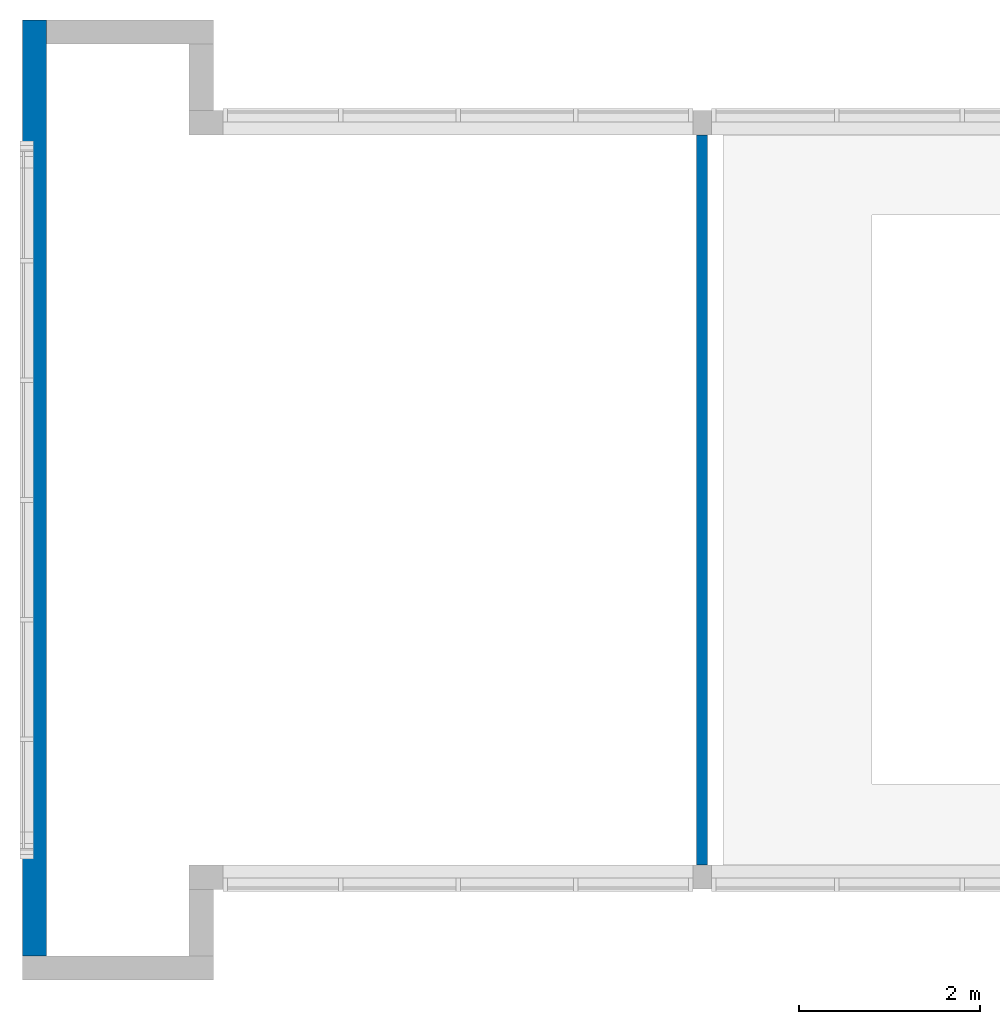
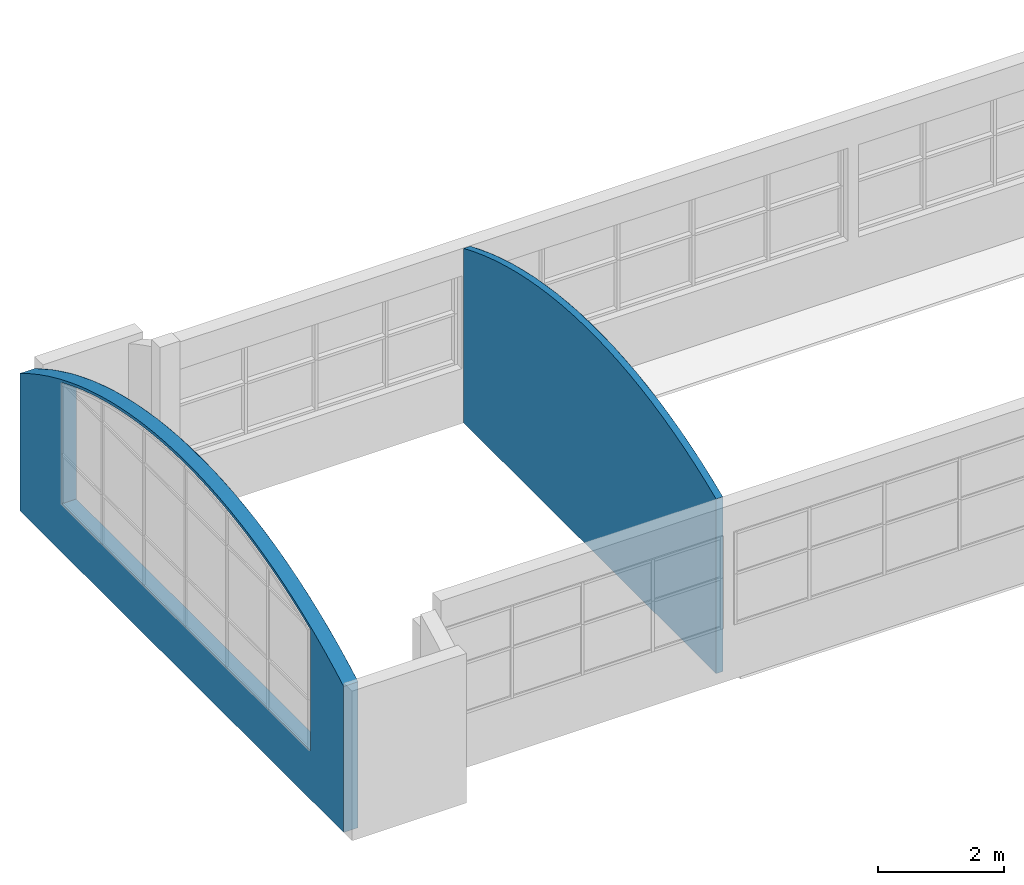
# One storey, part 13 of 14: 2 walls.
"""IFC2X3 building model written with IfcOpenShell, lengths in metres."""

from ifc_helpers import new_model, entity, si_unit, converted_unit, frame, origin, place, context, project, spatial, face_set, surface_model, material, layer, layer_set, layer_usage, element, save


model = new_model("IFC2X3")

# Units and contexts
model_context = context("Model", 3, precision=1e-09, world=origin())
plan_context = context("Plan", 3, precision=1e-09, world=origin())
ifc_project = project(units=[si_unit("LENGTHUNIT", "METRE"), si_unit("AREAUNIT", "SQUARE_METRE"), si_unit("VOLUMEUNIT", "CUBIC_METRE"), converted_unit("PLANEANGLEUNIT", "DEGREE", entity("IfcRatioMeasure", 0.01745329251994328), si_unit("PLANEANGLEUNIT", "RADIAN"), dimensions=[0, 0, 0, 0, 0, 0, 0]), si_unit("TIMEUNIT", "SECOND")], contexts=[model_context, plan_context])

# Site, building, storey
site_placement = place(None, origin())
site = spatial("IfcSite", under=ifc_project, at=site_placement, Name="Default", CompositionType="ELEMENT")
building_placement = place(site_placement, origin())
building = spatial("IfcBuilding", under=site, at=building_placement, CompositionType="ELEMENT")
storey_placement = place(building_placement, frame((0.0, 0.0, 9.25000000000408)))
storey = spatial("IfcBuildingStorey", under=building, at=storey_placement, Name="Roof - Main", CompositionType="ELEMENT", Elevation=9.25000000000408)

# Walls
ifc_material_1 = material(Name="Insulation - Insulated Panel")
ifc_layer_1 = layer(ifc_material_1, 0.042)
ifc_material_2 = material(Name="Metal - Firring")
ifc_layer_2 = layer(ifc_material_2, 0.038)
ifc_material_3 = material(Name="Wood - Sheathing - plywood")
ifc_layer_3 = layer(ifc_material_3, 0.019)
ifc_material_4 = material(Name="Metal - Stud Layer")
ifc_layer_4 = layer(ifc_material_4, 0.152)
ifc_material_5 = material(Name="Plasterboard")
ifc_layer_5 = layer(ifc_material_5, 0.016)
ifc_layer_set_1 = layer_set([ifc_layer_1, ifc_layer_2, ifc_layer_3, ifc_layer_4, ifc_layer_5], Name="Basic Wall:Exterior - Insul Panel on Mtl. Stud")
ifc_layer_usage_1 = layer_usage(ifc_layer_set_1, "AXIS2", "NEGATIVE", 0.1335)
wall_1_placement = place(storey_placement, frame((-40.90650000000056, 26.67250986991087, 0.1199999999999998), z_axis=(0.0, 0.0, 1.0), x_axis=(0.0, 1.0, 0.0)))
element("IfcWall", 1, at=wall_1_placement, inside=storey, material=ifc_layer_usage_1, Name="Basic Wall:Exterior - Insul Panel on Mtl. Stud", ObjectType="Basic Wall:Exterior - Insul Panel on Mtl. Stud", context=model_context, shape_type="SurfaceModel", body=[
    surface_model("IfcFaceBasedSurfaceModel", [(0.0, -0.1334999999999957, 0.0), (10.04498026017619, -0.1334999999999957, 0.0), (10.31198026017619, -0.1334999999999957, 0.0), (10.3119802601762, -0.1334999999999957, 2.675589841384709), (10.01113995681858, -0.1334999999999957, 2.852369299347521), (9.704403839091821, -0.1334999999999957, 3.018708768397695), (9.392134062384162, -0.1334999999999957, 3.174411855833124), (9.074699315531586, -0.1334999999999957, 3.319294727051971), (8.752474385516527, -0.1334999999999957, 3.453186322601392), (8.425839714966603, -0.1334999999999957, 3.575928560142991), (8.095180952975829, -0.1334999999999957, 3.687376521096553), (7.760888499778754, -0.1334999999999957, 3.787398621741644), (7.423357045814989, -0.1334999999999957, 3.875876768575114), (7.082985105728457, -0.1334999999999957, 3.952706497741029), (6.740174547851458, -0.1334999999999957, 4.017797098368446), (6.395330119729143, -0.1334999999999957, 4.071071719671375), (6.048858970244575, -0.1334999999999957, 4.11246746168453), (5.701170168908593, -0.1334999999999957, 4.141935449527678), (5.352674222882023, -0.1334999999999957, 4.159440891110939), (5.003782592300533, -0.1334999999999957, 4.164963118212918), (4.654907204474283, -0.1334999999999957, 4.158495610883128), (4.306459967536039, -0.1334999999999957, 4.140046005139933), (3.9588522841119, -0.1334999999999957, 4.109636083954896), (3.612494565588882, -0.1334999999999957, 4.067301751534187), (3.267795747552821, -0.1334999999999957, 4.01309299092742), (2.92516280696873, -0.1334999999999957, 3.947073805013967), (2.585000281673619, -0.1334999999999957, 3.8693221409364), (2.247709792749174, -0.1334999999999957, 3.779929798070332), (1.913689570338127, -0.1334999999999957, 3.679002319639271), (1.583333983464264, -0.1334999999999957, 3.566658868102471), (1.257033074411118, -0.1334999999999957, 3.443032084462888), (0.9351720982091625, -0.1334999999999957, 3.308267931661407), (0.6181310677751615, -0.1334999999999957, 3.16252552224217), (0.3062843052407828, -0.1334999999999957, 3.005976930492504), (0.0, -0.1334999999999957, 2.83880698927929), (1.064303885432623, -0.1334999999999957, 0.9470000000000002), (1.064303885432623, -0.1334999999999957, 3.305049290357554), (1.392391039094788, -0.1334999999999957, 3.436532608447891), (1.724836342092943, -0.1334999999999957, 3.556570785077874), (2.061240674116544, -0.1334999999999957, 3.665019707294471), (2.401200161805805, -0.1334999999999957, 3.761749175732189), (2.744306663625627, -0.1334999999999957, 3.846643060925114), (3.090148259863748, -0.1334999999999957, 3.919599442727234), (3.438309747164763, -0.1334999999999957, 3.980530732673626), (3.788373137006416, -0.1334999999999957, 4.029363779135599), (4.139918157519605, -0.1334999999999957, 4.066039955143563), (4.492522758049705, -0.1334999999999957, 4.090515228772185), (4.84576361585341, -0.1334999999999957, 4.102760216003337), (5.199216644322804, -0.1334999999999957, 4.102760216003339), (5.552457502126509, -0.1334999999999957, 4.090515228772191), (5.905062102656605, -0.1334999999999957, 4.06603995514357), (6.256607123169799, -0.1334999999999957, 4.029363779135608), (6.606670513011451, -0.1334999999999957, 3.980530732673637), (6.954832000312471, -0.1334999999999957, 3.919599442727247), (7.300673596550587, -0.1334999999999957, 3.846643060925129), (7.643780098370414, -0.1334999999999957, 3.761749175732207), (7.983739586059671, -0.1334999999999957, 3.665019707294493), (8.320143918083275, -0.1334999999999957, 3.556570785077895), (8.652589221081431, -0.1334999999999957, 3.436532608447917), (8.980676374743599, -0.1334999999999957, 3.30504929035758), (8.980676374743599, -0.1334999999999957, 0.9470000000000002), (10.3119802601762, 0.1335000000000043, 0.0), (10.31198026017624, 0.1335000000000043, 2.675589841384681), (10.01113995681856, 0.1335000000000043, 2.85236929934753), (9.704403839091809, 0.1335000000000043, 3.018708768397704), (9.392134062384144, 0.1335000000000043, 3.17441185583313), (9.074699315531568, 0.1335000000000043, 3.319294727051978), (8.752474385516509, 0.1335000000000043, 3.453186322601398), (8.425839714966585, 0.1335000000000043, 3.575928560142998), (8.095180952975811, 0.1335000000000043, 3.687376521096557), (7.760888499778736, 0.1335000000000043, 3.787398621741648), (7.423357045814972, 0.1335000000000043, 3.875876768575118), (7.08298510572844, 0.1335000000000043, 3.952706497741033), (6.740174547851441, 0.1335000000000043, 4.017797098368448), (6.395330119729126, 0.1335000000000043, 4.071071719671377), (6.048858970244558, 0.1335000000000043, 4.112467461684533), (5.701170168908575, 0.1335000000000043, 4.141935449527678), (5.352674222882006, 0.1335000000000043, 4.159440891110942), (5.003782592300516, 0.1335000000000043, 4.164963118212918), (4.654907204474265, 0.1335000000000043, 4.158495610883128), (4.306459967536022, 0.1335000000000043, 4.140046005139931), (3.958852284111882, 0.1335000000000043, 4.109636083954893), (3.612494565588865, 0.1335000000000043, 4.067301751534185), (3.267795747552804, 0.1335000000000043, 4.013092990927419), (2.925162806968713, 0.1335000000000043, 3.947073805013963), (2.585000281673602, 0.1335000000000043, 3.869322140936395), (2.247709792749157, 0.1335000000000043, 3.779929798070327), (1.91368957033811, 0.1335000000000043, 3.679002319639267), (1.583333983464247, 0.1335000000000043, 3.566658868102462), (1.257033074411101, 0.1335000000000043, 3.443032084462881), (0.9351720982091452, 0.1335000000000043, 3.308267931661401), (0.6181310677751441, 0.1335000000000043, 3.162525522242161), (0.3062843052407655, 0.1335000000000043, 3.005976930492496), (0.0, 0.1335000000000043, 2.838806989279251), (0.0, 0.1335000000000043, 0.0), (1.064303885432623, 0.1335000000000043, 3.305049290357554), (1.392391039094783, 0.1335000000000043, 3.436532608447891), (1.724836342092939, 0.1335000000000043, 3.556570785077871), (2.06124067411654, 0.1335000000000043, 3.665019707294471), (2.401200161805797, 0.1335000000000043, 3.761749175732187), (2.744306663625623, 0.1335000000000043, 3.846643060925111), (3.090148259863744, 0.1335000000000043, 3.919599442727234), (3.438309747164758, 0.1335000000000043, 3.980530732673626), (3.788373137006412, 0.1335000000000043, 4.029363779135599), (4.139918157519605, 0.1335000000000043, 4.066039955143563), (4.492522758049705, 0.1335000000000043, 4.090515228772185), (4.845763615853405, 0.1335000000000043, 4.102760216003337), (5.199216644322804, 0.1335000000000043, 4.102760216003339), (5.552457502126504, 0.1335000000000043, 4.090515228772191), (5.905062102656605, 0.1335000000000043, 4.06603995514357), (6.256607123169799, 0.1335000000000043, 4.029363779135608), (6.606670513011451, 0.1335000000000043, 3.980530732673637), (6.954832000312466, 0.1335000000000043, 3.919599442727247), (7.300673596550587, 0.1335000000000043, 3.846643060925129), (7.643780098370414, 0.1335000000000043, 3.761749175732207), (7.983739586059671, 0.1335000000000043, 3.665019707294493), (8.320143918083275, 0.1335000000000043, 3.556570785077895), (8.652589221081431, 0.1335000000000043, 3.436532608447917), (8.980676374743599, 0.1335000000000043, 3.30504929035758), (8.980676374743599, 0.1335000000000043, 0.9470000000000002), (1.064303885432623, 0.1335000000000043, 0.9469999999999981), (5.178039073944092, 0.1335019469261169, 4.15021562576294), (5.178039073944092, -0.1335003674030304, 4.15021562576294)], [face_set([[[0, 1, 2, 3, 4, 5, 6, 7, 8, 9, 10, 11, 12, 13, 14, 15, 16, 17, 18, 19, 20, 21, 22, 23, 24, 25, 26, 27, 28, 29, 30, 31, 32, 33, 34], [35, 36, 37, 38, 39, 40, 41, 42, 43, 44, 45, 46, 47, 48, 49, 50, 51, 52, 53, 54, 55, 56, 57, 58, 59, 60]], [[61, 62, 63, 64, 65, 66, 67, 68, 69, 70, 71, 72, 73, 74, 75, 76, 77, 78, 79, 80, 81, 82, 83, 84, 85, 86, 87, 88, 89, 90, 91, 92, 93, 94], [95, 96, 97, 98, 99, 100, 101, 102, 103, 104, 105, 106, 107, 108, 109, 110, 111, 112, 113, 114, 115, 116, 117, 118, 119, 120]], [[3, 2, 61, 62]], [[2, 1, 0, 94, 61]], [[0, 94, 93, 34]], [[35, 120, 95, 36]], [[97, 96, 37, 38]], [[96, 95, 36, 37]], [[100, 99, 40, 41]], [[99, 98, 39, 40]], [[98, 97, 38, 39]], [[103, 102, 43, 44]], [[102, 101, 42, 43]], [[106, 105, 46, 47]], [[105, 104, 45, 46]], [[104, 103, 44, 45]], [[101, 100, 41, 42]], [[107, 106, 47, 48]], [[109, 108, 49, 50]], [[108, 107, 48, 49]], [[112, 111, 52, 53]], [[111, 110, 51, 52]], [[110, 109, 50, 51]], [[115, 114, 55, 56]], [[114, 113, 54, 55]], [[118, 117, 58, 59]], [[117, 116, 57, 58]], [[116, 115, 56, 57]], [[113, 112, 53, 54]], [[59, 60, 119, 118]], [[120, 119, 60, 35]], [[64, 66, 7, 5]], [[62, 64, 5, 3]], [[66, 68, 9, 7]], [[72, 74, 15, 13]], [[70, 72, 13, 11]], [[68, 70, 11, 9]], [[74, 76, 17, 15]], [[121, 79, 20, 122]], [[76, 121, 122, 17]], [[81, 83, 24, 22]], [[79, 81, 22, 20]], [[83, 85, 26, 24]], [[89, 91, 32, 30]], [[87, 89, 30, 28]], [[85, 87, 28, 26]], [[91, 93, 34, 32]]])]),
])
ifc_layer_6 = layer(ifc_material_5, 0.016)
ifc_layer_7 = layer(ifc_material_4, 0.092)
ifc_layer_8 = layer(ifc_material_5, 0.016)
ifc_layer_set_2 = layer_set([ifc_layer_6, ifc_layer_7, ifc_layer_8], Name="Basic Wall:Interior - Partition (92mm Stud)")
ifc_layer_usage_2 = layer_usage(ifc_layer_set_2, "AXIS2", "NEGATIVE", 0.062)
wall_2_placement = place(storey_placement, frame((-33.5500000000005, 27.67300986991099, 0.0), z_axis=(0.0, 0.0, 1.0), x_axis=(0.0, 1.0, 0.0)))
element("IfcWall", 2, at=wall_2_placement, inside=storey, material=ifc_layer_usage_2, Name="Basic Wall:Interior - Partition (92mm Stud)", ObjectType="Basic Wall:Interior - Partition (92mm Stud)", context=model_context, shape_type="SurfaceModel", body=[
    surface_model("IfcFaceBasedSurfaceModel", [(0.0, -0.06200000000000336, 0.0), (8.044480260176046, -0.06200000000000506, 0.0), (8.044480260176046, -0.06200000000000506, 3.392190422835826), (7.71189691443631, -0.06200000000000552, 3.52893938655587), (7.374680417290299, -0.06200000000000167, 3.653827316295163), (7.033253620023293, -0.06200000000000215, 3.766697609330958), (6.688044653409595, -0.06200000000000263, 3.867408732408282), (6.339486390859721, -0.06200000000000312, 3.955834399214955), (5.9880159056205, -0.06200000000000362, 4.031863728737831), (5.634073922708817, -0.06200000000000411, 4.09540138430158), (5.278104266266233, -0.06200000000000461, 4.146367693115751), (4.920553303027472, -0.06200000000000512, 4.184698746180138), (4.561869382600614, -0.06200000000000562, 4.210346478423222), (4.202502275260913, -0.0620000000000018, 4.223278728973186), (3.842902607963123, -0.06200000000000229, 4.223479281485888), (3.483521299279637, -0.0620000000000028, 4.210947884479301), (3.124808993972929, -0.06200000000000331, 4.185700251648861), (2.767215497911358, -0.06200000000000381, 4.147768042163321), (2.411189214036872, -0.06200000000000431, 4.097198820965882), (2.057176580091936, -0.06200000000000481, 4.034055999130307), (1.705621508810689, -0.06200000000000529, 3.958418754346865), (1.35696483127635, -0.06200000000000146, 3.870381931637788), (1.011643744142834, -0.06200000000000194, 3.770055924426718), (0.67009126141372, -0.06200000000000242, 3.657566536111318), (0.3327356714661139, -0.06200000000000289, 3.533054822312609), (0.0, -0.06200000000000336, 3.396676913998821), (0.0, 0.06199999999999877, 0.0), (8.044480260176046, 0.06199999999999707, 0.0), (8.04448026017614, 0.06199999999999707, 3.392190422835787), (7.71189691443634, 0.06199999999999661, 3.528939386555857), (7.374680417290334, 0.06200000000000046, 3.65382731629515), (7.033253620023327, 0.06199999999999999, 3.766697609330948), (6.68804465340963, 0.0619999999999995, 3.867408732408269), (6.339486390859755, 0.06199999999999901, 3.955834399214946), (5.988015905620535, 0.06199999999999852, 4.031863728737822), (5.634073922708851, 0.06199999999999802, 4.095401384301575), (5.278104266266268, 0.06199999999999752, 4.146367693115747), (4.920553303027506, 0.06199999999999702, 4.184698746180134), (4.561869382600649, 0.06199999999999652, 4.210346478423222), (4.202502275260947, 0.06200000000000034, 4.223278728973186), (3.842902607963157, 0.06199999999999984, 4.223479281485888), (3.483521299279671, 0.06199999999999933, 4.210947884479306), (3.124808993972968, 0.06199999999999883, 4.185700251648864), (2.767215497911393, 0.06199999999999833, 4.147768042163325), (2.411189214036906, 0.06199999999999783, 4.097198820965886), (2.05717658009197, 0.06199999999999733, 4.034055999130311), (1.705621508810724, 0.06199999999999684, 3.958418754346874), (1.356964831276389, 0.06200000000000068, 3.870381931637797), (1.011643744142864, 0.06200000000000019, 3.77005592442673), (0.6700912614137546, 0.06199999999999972, 3.657566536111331), (0.3327356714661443, 0.06199999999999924, 3.533054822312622), (0.0, 0.06199999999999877, 3.396676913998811), (4.022695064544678, 0.06199952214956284, 4.210647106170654), (4.022695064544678, -0.06199988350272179, 4.210647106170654)], [face_set([[[0, 1, 2, 3, 4, 5, 6, 7, 8, 9, 10, 11, 12, 13, 14, 15, 16, 17, 18, 19, 20, 21, 22, 23, 24, 25]], [[26, 27, 28, 29, 30, 31, 32, 33, 34, 35, 36, 37, 38, 39, 40, 41, 42, 43, 44, 45, 46, 47, 48, 49, 50, 51]], [[0, 26, 51, 25]], [[2, 1, 27, 28]], [[1, 0, 26, 27]], [[2, 28, 30, 4]], [[4, 30, 32, 6]], [[8, 34, 36, 10]], [[6, 32, 34, 8]], [[10, 36, 38, 12]], [[52, 53, 12, 38]], [[53, 52, 41, 15]], [[15, 41, 43, 17]], [[17, 43, 45, 19]], [[21, 47, 49, 23]], [[19, 45, 47, 21]], [[23, 49, 51, 25]]])]),
])

save(model, "model.ifc")
